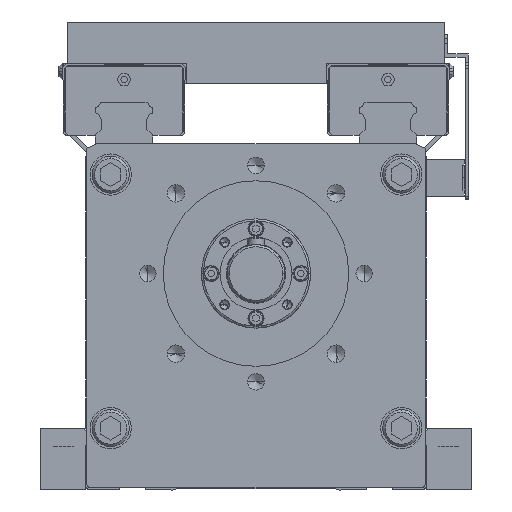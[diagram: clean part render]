
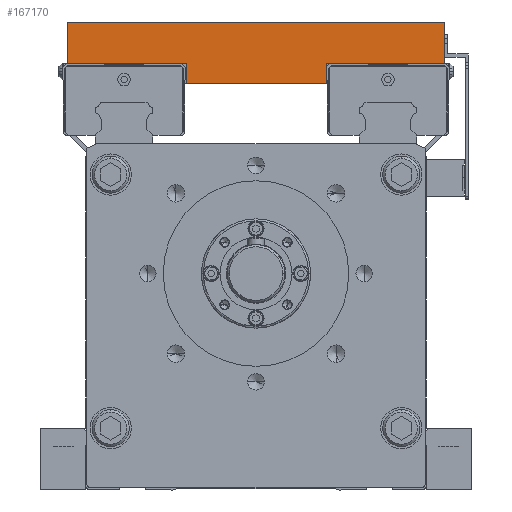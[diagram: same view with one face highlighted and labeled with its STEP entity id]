
A CAD part, front view. The second image highlights one B-rep face of the part: STEP entity #167170.
In plain terms, the highlighted planar face has unit normal (0, -1, 0) as drawn and (0, 0, 1) by its records, which use the part's own axes.
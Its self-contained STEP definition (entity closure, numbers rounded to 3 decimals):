
#135220=CARTESIAN_POINT('',(1390.25,261.412,425.));
#135230=DIRECTION('',(0.,-1.,0.));
#135240=VECTOR('',#135230,1.);
#135250=LINE('',#135220,#135240);
#135260=CARTESIAN_POINT('',(1390.25,261.412,425.));
#135270=VERTEX_POINT('',#135260);
#135280=CARTESIAN_POINT('',(1390.25,241.412,425.));
#135290=VERTEX_POINT('',#135280);
#135300=EDGE_CURVE('',#135270,#135290,#135250,.T.);
#148770=CARTESIAN_POINT('',(1515.856,241.412,425.));
#148780=VERTEX_POINT('',#148770);
#148830=CARTESIAN_POINT('',(1413.965,241.412,425.));
#148840=DIRECTION('',(1.,0.,0.));
#148850=VECTOR('',#148840,1.);
#148860=LINE('',#148830,#148850);
#148870=CARTESIAN_POINT('',(1573.25,241.412,425.));
#148880=VERTEX_POINT('',#148870);
#148890=EDGE_CURVE('',#148780,#148880,#148860,.T.);
#151380=CARTESIAN_POINT('',(1399.25,241.412,425.));
#151390=DIRECTION('',(-1.,0.,0.));
#151400=VECTOR('',#151390,1.);
#151410=LINE('',#151380,#151400);
#151420=CARTESIAN_POINT('',(1447.856,241.412,425.));
#151430=VERTEX_POINT('',#151420);
#151440=EDGE_CURVE('',#151430,#135290,#151410,.T.);
#157920=CARTESIAN_POINT('',(1447.856,204.151,425.));
#157930=DIRECTION('',(0.,-1.,0.));
#157940=VECTOR('',#157930,1.);
#157950=LINE('',#157920,#157940);
#157960=CARTESIAN_POINT('',(1447.856,231.412,425.));
#157970=VERTEX_POINT('',#157960);
#157980=EDGE_CURVE('',#151430,#157970,#157950,.T.);
#166360=CARTESIAN_POINT('',(1573.25,261.412,425.));
#166370=VERTEX_POINT('',#166360);
#166400=CARTESIAN_POINT('',(1399.25,261.412,425.));
#166410=DIRECTION('',(-1.,0.,0.));
#166420=VECTOR('',#166410,1.);
#166430=LINE('',#166400,#166420);
#166440=EDGE_CURVE('',#166370,#135270,#166430,.T.);
#166850=CARTESIAN_POINT('',(1399.25,261.412,425.));
#166860=DIRECTION('',(0.,0.,1.));
#166870=DIRECTION('',(-1.,0.,0.));
#166880=AXIS2_PLACEMENT_3D('',#166850,#166860,#166870);
#166890=PLANE('',#166880);
#166900=CARTESIAN_POINT('',(1573.25,204.151,425.));
#166910=DIRECTION('',(0.,1.,0.));
#166920=VECTOR('',#166910,1.);
#166930=LINE('',#166900,#166920);
#166940=EDGE_CURVE('',#148880,#166370,#166930,.T.);
#166950=ORIENTED_EDGE('',*,*,#166940,.T.);
#166960=ORIENTED_EDGE('',*,*,#148890,.T.);
#166970=CARTESIAN_POINT('',(1515.856,204.151,425.));
#166980=DIRECTION('',(0.,1.,0.));
#166990=VECTOR('',#166980,1.);
#167000=LINE('',#166970,#166990);
#167010=CARTESIAN_POINT('',(1515.856,231.412,425.));
#167020=VERTEX_POINT('',#167010);
#167030=EDGE_CURVE('',#167020,#148780,#167000,.T.);
#167040=ORIENTED_EDGE('',*,*,#167030,.T.);
#167050=CARTESIAN_POINT('',(1413.965,231.412,425.));
#167060=DIRECTION('',(1.,0.,0.));
#167070=VECTOR('',#167060,1.);
#167080=LINE('',#167050,#167070);
#167090=EDGE_CURVE('',#157970,#167020,#167080,.T.);
#167100=ORIENTED_EDGE('',*,*,#167090,.T.);
#167110=ORIENTED_EDGE('',*,*,#157980,.T.);
#167120=ORIENTED_EDGE('',*,*,#151440,.F.);
#167130=ORIENTED_EDGE('',*,*,#135300,.T.);
#167140=ORIENTED_EDGE('',*,*,#166440,.T.);
#167150=EDGE_LOOP('',(#167140,#167130,#167120,#167110,#167100,#167040,
#166960,#166950));
#167160=FACE_OUTER_BOUND('',#167150,.T.);
#167170=ADVANCED_FACE('',(#167160),#166890,.T.);
